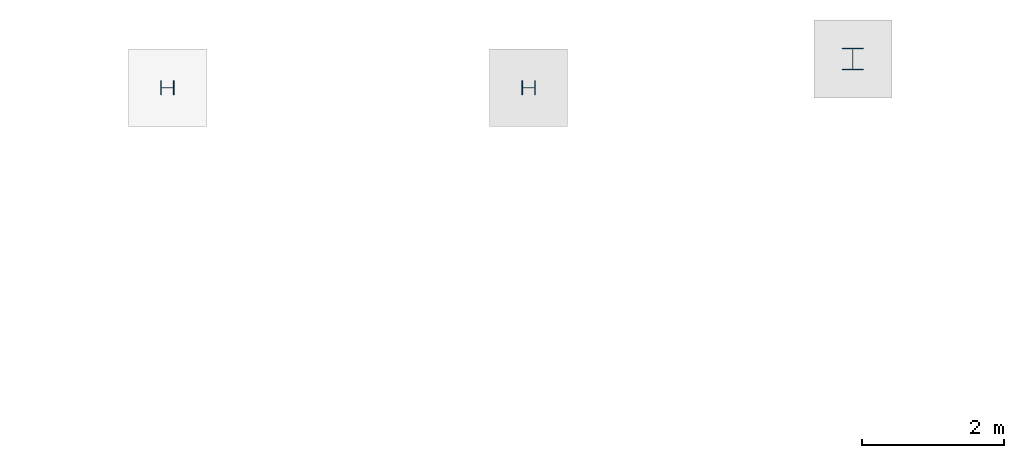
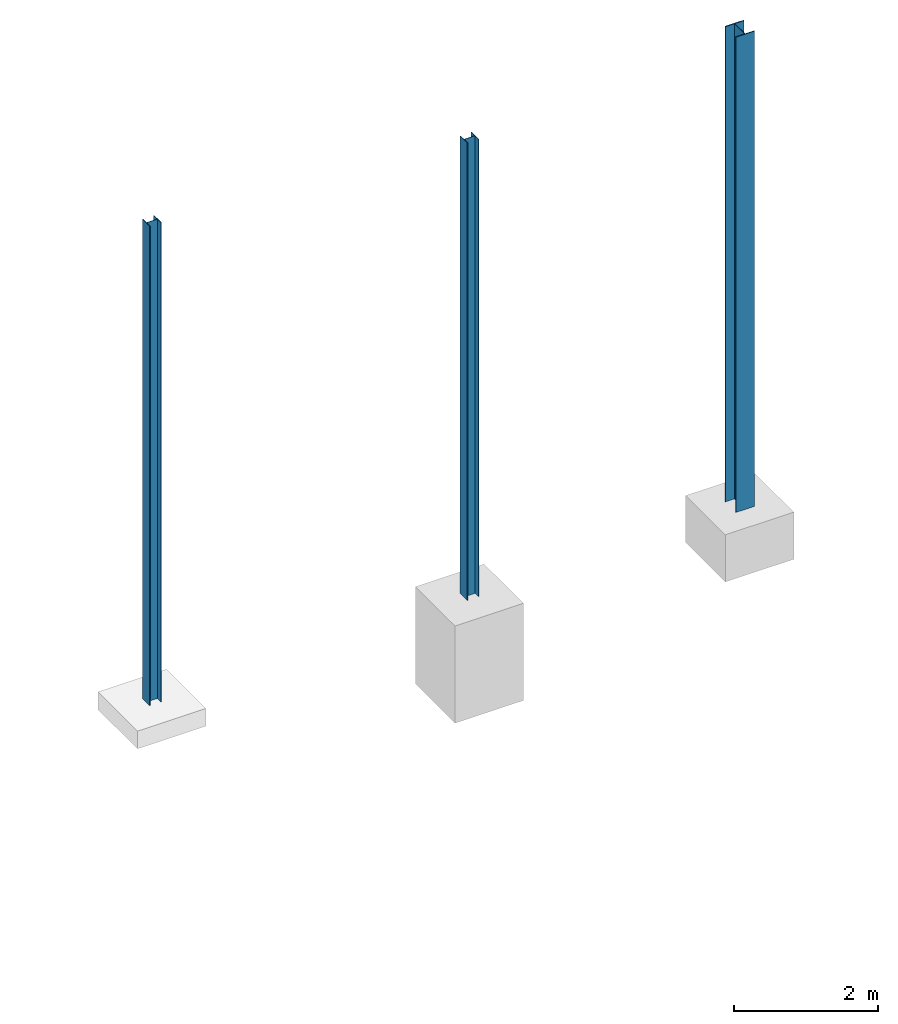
# One storey, part 44 of 59: 3 columns.
"""IFC2X3 building model written with IfcOpenShell, lengths in metres."""

from ifc_helpers import new_model, entity, si_unit, converted_unit, derived_unit, frame, origin, origin_with_axes, place, context, subcontext, project, spatial, polyline, outline, extrude, material, element, save


model = new_model("IFC2X3")

# Units and contexts
model_context = context("Model", 3, precision=1e-05, world=origin())
body_context = subcontext(model_context, "Body", "Model", "MODEL_VIEW")
ifc_project = project(units=[si_unit("LENGTHUNIT", "METRE"), si_unit("AREAUNIT", "SQUARE_METRE"), si_unit("VOLUMEUNIT", "CUBIC_METRE"), si_unit("MASSUNIT", "GRAM", prefix="KILO"), converted_unit("PLANEANGLEUNIT", "DEGREE", entity("IfcPlaneAngleMeasure", 0.0174532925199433), si_unit("PLANEANGLEUNIT", "RADIAN"), dimensions=[0, 0, 0, 0, 0, 0, 0]), derived_unit("THERMALTRANSMITTANCEUNIT", [(si_unit("POWERUNIT", "WATT"), 1), (si_unit("THERMODYNAMICTEMPERATUREUNIT", "KELVIN"), -1), (si_unit("LENGTHUNIT", "METRE"), -2)]), derived_unit("VOLUMETRICFLOWRATEUNIT", [(si_unit("LENGTHUNIT", "METRE"), 3), (converted_unit("TIMEUNIT", "hour", entity("IfcTimeMeasure", 3600.0), si_unit("TIMEUNIT", "SECOND"), dimensions=[0, 0, 1, 0, 0, 0, 0]), -1), (si_unit("LENGTHUNIT", "METRE"), -1)])], contexts=[model_context])

# Site, building, storey
site_placement = place(None, origin())
site = spatial("IfcSite", under=ifc_project, at=site_placement, Name="TWP_Speiseverteilzentrum SBW VZ II", CompositionType="ELEMENT")
building_placement = place(site_placement, origin())
building = spatial("IfcBuilding", under=site, at=building_placement, Name="Speiseverteilzentrum SBW VZ II", CompositionType="ELEMENT")
storey_placement = place(building_placement, frame((0.0, 0.0, 1.7307)))
storey = spatial("IfcBuildingStorey", under=building, at=storey_placement, Name="EG_Produktion_FFB", CompositionType="ELEMENT", Elevation=1.7307)

# Columns
ifc_material_1 = material(Name="S235")
column_1_placement = place(storey_placement, frame((116.2, 85.8009999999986, -2.25)))
element("IfcColumn", 1, at=column_1_placement, inside=storey, material=ifc_material_1, Name="Stahlstütze", context=body_context, shape_type="SweptSolid", body=[
    extrude(outline(polyline([(0.0, 0.0), (0.3, 0.0), (0.3, 0.0155), (0.1545, 0.0155), (0.1545, 0.2945), (0.3, 0.2945), (0.3, 0.31), (0.0, 0.31), (0.0, 0.2945), (0.1455, 0.2945), (0.1455, 0.0155), (0.0, 0.0155), (0.0, 0.0)])), origin_with_axes(), (0.0, 0.0, 1.0), 8.0693),
])
ifc_material_2 = material(Name="S235")
column_2_placement = place(storey_placement, frame((111.680339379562, 85.4500000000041, -1.95)))
element("IfcColumn", 2, at=column_2_placement, inside=storey, material=ifc_material_2, Name="Stahlstütze", context=body_context, shape_type="SweptSolid", body=[
    extrude(outline(polyline([(0.19, 0.0), (0.19, 0.2), (0.18, 0.2), (0.18, 0.10325), (0.01, 0.10325), (0.01, 0.2), (0.0, 0.2), (0.0, 0.0), (0.01, 0.0), (0.01, 0.09675), (0.18, 0.09675), (0.18, 0.0), (0.19, 0.0)])), origin_with_axes(), (0.0, 0.0, 1.0), 7.7693),
])
ifc_material_3 = material(Name="S235")
column_3_placement = place(storey_placement, frame((106.580339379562, 85.4500000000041, -1.95)))
element("IfcColumn", 3, at=column_3_placement, inside=storey, material=ifc_material_3, Name="Stahlstütze", context=body_context, shape_type="SweptSolid", body=[
    extrude(outline(polyline([(0.19, 0.0), (0.19, 0.2), (0.18, 0.2), (0.18, 0.10325), (0.01, 0.10325), (0.01, 0.2), (0.0, 0.2), (0.0, 0.0), (0.01, 0.0), (0.01, 0.09675), (0.18, 0.09675), (0.18, 0.0), (0.19, 0.0)])), origin_with_axes(), (0.0, 0.0, 1.0), 8.1393),
])

save(model, "model.ifc")
